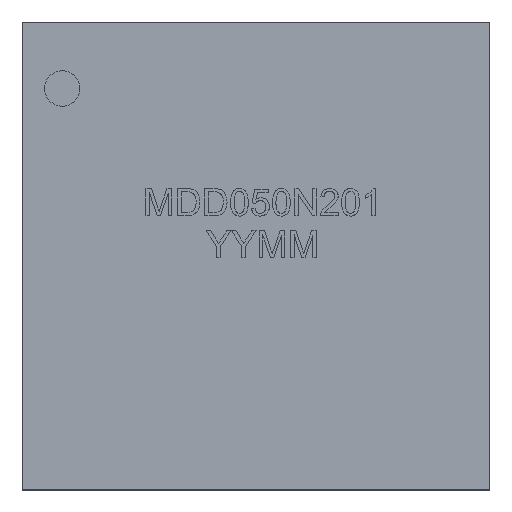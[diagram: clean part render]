
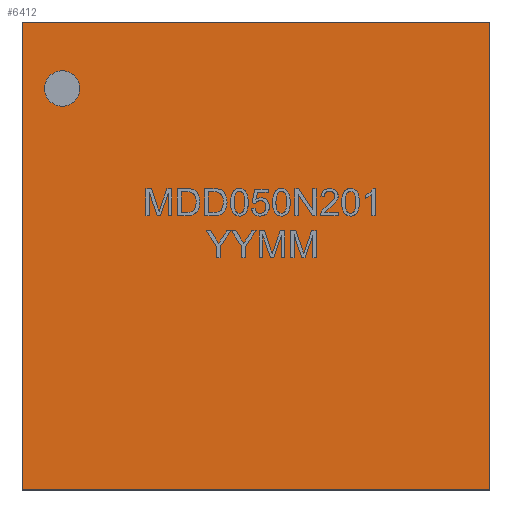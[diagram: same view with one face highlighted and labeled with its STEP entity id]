
A CAD part, top view. The second image highlights one B-rep face of the part: STEP entity #6412.
In plain terms, the highlighted planar face has unit normal (0, 0, 1).
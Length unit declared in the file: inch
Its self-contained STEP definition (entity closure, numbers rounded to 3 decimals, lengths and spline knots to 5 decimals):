
#658=FACE_OUTER_BOUND('',#1038,.T.);
#1038=EDGE_LOOP('',(#4641,#4642,#4643,#4644));
#1536=LINE('',#8675,#2192);
#1539=LINE('',#8681,#2195);
#1542=LINE('',#8687,#2198);
#1545=LINE('',#8691,#2201);
#2192=VECTOR('',#7473,0.3937);
#2195=VECTOR('',#7478,0.3937);
#2198=VECTOR('',#7483,0.3937);
#2201=VECTOR('',#7488,0.3937);
#2775=VERTEX_POINT('',#8672);
#2776=VERTEX_POINT('',#8674);
#2778=VERTEX_POINT('',#8680);
#2780=VERTEX_POINT('',#8686);
#3472=EDGE_CURVE('',#2776,#2775,#1536,.T.);
#3475=EDGE_CURVE('',#2778,#2776,#1539,.T.);
#3478=EDGE_CURVE('',#2780,#2778,#1542,.T.);
#3481=EDGE_CURVE('',#2775,#2780,#1545,.T.);
#4641=ORIENTED_EDGE('',*,*,#3481,.T.);
#4642=ORIENTED_EDGE('',*,*,#3478,.T.);
#4643=ORIENTED_EDGE('',*,*,#3475,.T.);
#4644=ORIENTED_EDGE('',*,*,#3472,.T.);
#6172=PLANE('',#6886);
#6412=ADVANCED_FACE('',(#658),#6172,.T.);
#6886=AXIS2_PLACEMENT_3D('',#8692,#7489,#7490);
#7473=DIRECTION('',(0.,-1.,0.));
#7478=DIRECTION('',(-1.,0.,0.));
#7483=DIRECTION('',(0.,1.,0.));
#7488=DIRECTION('',(1.,0.,0.));
#7489=DIRECTION('center_axis',(0.,0.,1.));
#7490=DIRECTION('ref_axis',(1.,0.,0.));
#8672=CARTESIAN_POINT('',(0.,0.,0.076));
#8674=CARTESIAN_POINT('',(0.,0.43327,0.076));
#8675=CARTESIAN_POINT('',(0.,0.,0.076));
#8680=CARTESIAN_POINT('',(0.43258,0.43327,0.076));
#8681=CARTESIAN_POINT('',(0.,0.43327,0.076));
#8686=CARTESIAN_POINT('',(0.43258,0.,0.076));
#8687=CARTESIAN_POINT('',(0.43258,0.43327,0.076));
#8691=CARTESIAN_POINT('',(0.43258,0.,0.076));
#8692=CARTESIAN_POINT('Origin',(0.21629,0.21664,0.076));
